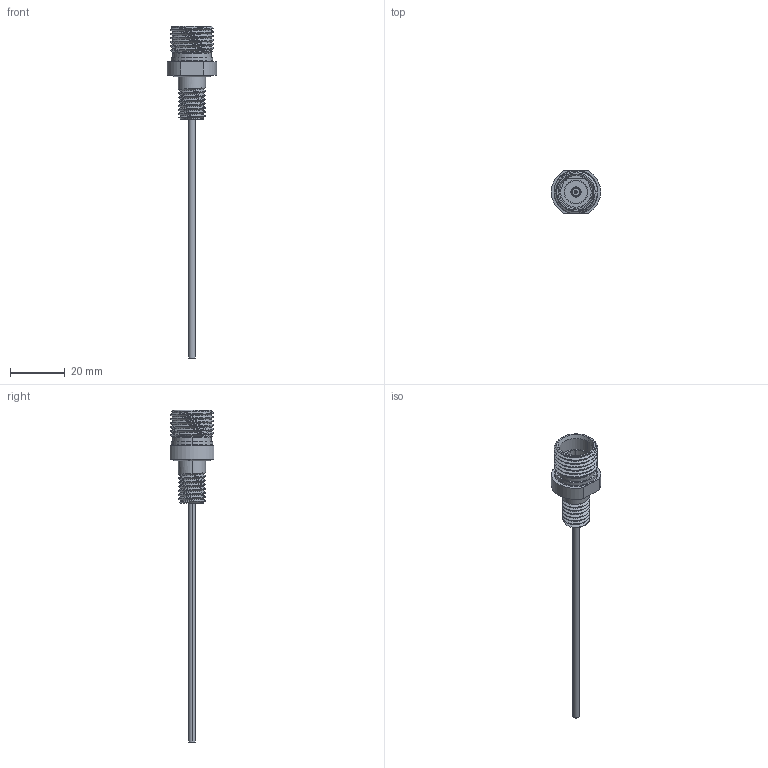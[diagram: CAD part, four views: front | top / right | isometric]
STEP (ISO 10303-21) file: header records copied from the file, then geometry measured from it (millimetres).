
FILE_DESCRIPTION (( 'STEP AP203' ), '1' );
FILE_NAME ('COB-11C0.STEP', '2024-07-24T16:26:33', ( '' ), ( '' ), 'SwSTEP 2.0', 'SolidWorks 2022', '' );
FILE_SCHEMA (( 'CONFIG_CONTROL_DESIGN' ));
Length unit declared in the file: millimetre
Products named in the file (1): COB-11C0
Bounding box: 17.97 x 16 x 121.25 mm (x, y, z)
Volume: 3492.9 mm3; surface area: 3938 mm2
Topology: 2 solids, 2 shells, 150 faces, 400 edges, 261 vertices
Faces by surface type: cylinder 64, plane 44, cone 20, torus 14, bspline 6, sphere 2
Entity records: 8880 total; most frequent: CARTESIAN_POINT 5220, ORIENTED_EDGE 796, DIRECTION 722, EDGE_CURVE 398, AXIS2_PLACEMENT_3D 288, VERTEX_POINT 261, EDGE_LOOP 161, ADVANCED_FACE 150
